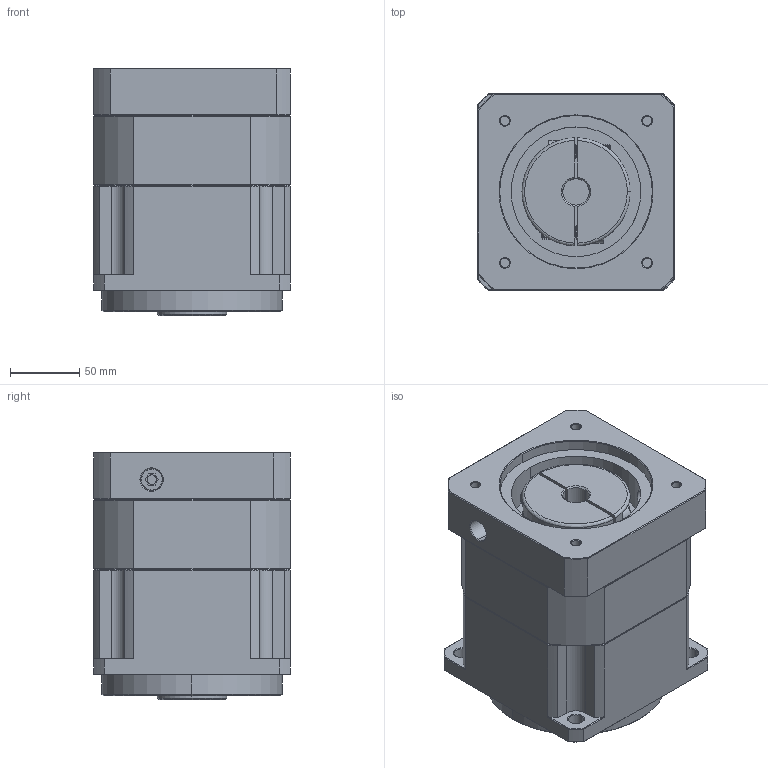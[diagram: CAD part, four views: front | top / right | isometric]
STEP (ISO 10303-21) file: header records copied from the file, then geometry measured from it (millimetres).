
FILE_DESCRIPTION (( 'STEP AP214' ), '1' );
FILE_NAME ('ZPB142-K35-L1-P1-19-110-145-M8.step', '2024-07-05T00:08:32', ( 'Windows 蚚誧' ), ( 'Organization' ), 'SwSTEP 2.0', 'SolidWorks 2016', '' );
FILE_SCHEMA (( 'AUTOMOTIVE_DESIGN' ));
Length unit declared in the file: millimetre
Products named in the file (1): ZPB142-K35-L1-P1-19-110-145-M8
Bounding box: 142 x 142 x 178.5 mm (x, y, z)
Surface area: 181210.6 mm2 (no closed solid volume)
Topology: 0 solids, 36 shells, 1752 faces, 4679 edges, 3002 vertices
Faces by surface type: plane 909, bspline 376, cone 257, cylinder 210
Entity records: 86535 total; most frequent: CARTESIAN_POINT 37634, ORIENTED_EDGE 9354, DIRECTION 7195, EDGE_CURVE 4679, VECTOR 3125, LINE 3125, VERTEX_POINT 3002, AXIS2_PLACEMENT_3D 2035
